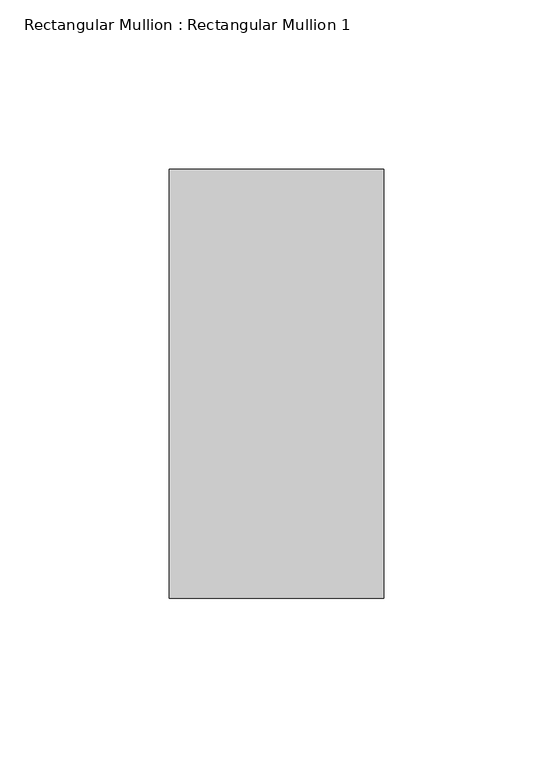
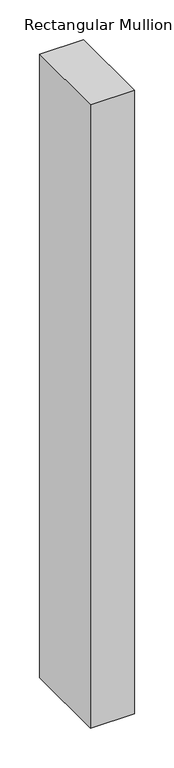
"""IFC4 building model written with IfcOpenShell, lengths in millimetres: member geometry, Rectangular Mullion : Rectangular Mullion 1."""

import ifcopenshell
import ifcopenshell.guid

model = None  # the IFC model being written
_history = None  # IfcOwnerHistory: only IFC2X3 demands one
_inside = {}  # id of a spatial element -> (the spatial element, [elements in it])
_under = {}  # id of a project, library or spatial element -> (it, [spatial elements below it])
_declared = {}  # id of a project -> (the project, [libraries it declares])
_typed = {}  # id of a type object -> (the type object, [elements of that type])
_made_of = {}  # id of a material, layer set ... -> (it, [elements and type objects made of it])


def new_model(schema):
    """Start an empty IFC model of exactly this schema.

    Asked for "IFC4X3", IfcOpenShell would pick the latest addendum, in which some entities
    have other attributes; the version numbers below select the first issue.
    IFC2X3 requires an IfcOwnerHistory on every rooted entity: one is made here for all.
    """
    global model, _history
    if schema == "IFC4X3":
        model = ifcopenshell.file(schema_version=(4, 3, 0, 0))
    else:
        model = ifcopenshell.file(schema=schema)
    _inside.clear()
    _under.clear()
    _declared.clear()
    _typed.clear()
    _made_of.clear()
    _history = None
    if model.schema == "IFC2X3":
        org = make("IfcOrganization", Name="unknown")
        user = make(
            "IfcPersonAndOrganization",
            ThePerson=make("IfcPerson", FamilyName="unknown"),
            TheOrganization=org,
        )
        app = make(
            "IfcApplication",
            ApplicationDeveloper=org,
            Version="unknown",
            ApplicationFullName="unknown",
            ApplicationIdentifier="unknown",
        )
        _history = make(
            "IfcOwnerHistory",
            OwningUser=user,
            OwningApplication=app,
            ChangeAction="ADDED",
            CreationDate=0,
        )
    return model


def make(cls, **values):
    """One entity of the class cls with the attributes given. An attribute that is None is left unset."""
    return model.create_entity(
        cls, **{name: value for name, value in values.items() if value is not None}
    )


def rooted(cls, **values):
    """An entity with a GlobalId (a new one), such as an element, a storey or a relation."""
    return make(cls, GlobalId=ifcopenshell.guid.new(), OwnerHistory=_history, **values)


def si_unit(unit_type, name, prefix=None):
    """IfcSIUnit, for example si_unit("LENGTHUNIT", "METRE", prefix="MILLI")."""
    return make("IfcSIUnit", UnitType=unit_type, Prefix=prefix, Name=name)


def assignment(units):
    """IfcUnitAssignment: the units of a project."""
    return None if units is None else make("IfcUnitAssignment", Units=units)


def point(xyz):
    """IfcCartesianPoint."""
    return None if xyz is None else make("IfcCartesianPoint", Coordinates=xyz)


def direction(xyz):
    """IfcDirection."""
    return None if xyz is None else make("IfcDirection", DirectionRatios=xyz)


def frame(location, z_axis=None, x_axis=None):
    """IfcAxis2Placement3D, a coordinate frame: its origin and axes. An axis left out is left unset."""
    return make(
        "IfcAxis2Placement3D",
        Location=point(location),
        Axis=direction(z_axis),
        RefDirection=direction(x_axis),
    )


def origin():
    """The frame at (0, 0, 0) with its axes left unset."""
    return frame((0.0, 0.0, 0.0))


def place(relative_to, where):
    """IfcLocalPlacement: puts the frame where relative to a parent placement (None: the world)."""
    return make(
        "IfcLocalPlacement", PlacementRelTo=relative_to, RelativePlacement=where
    )


def context(
    kind, dimensions, precision=None, world=None, true_north=None, identifier=None
):
    """IfcGeometricRepresentationContext, for example the 3D "Model" context."""
    return make(
        "IfcGeometricRepresentationContext",
        ContextIdentifier=identifier,
        ContextType=kind,
        CoordinateSpaceDimension=dimensions,
        Precision=precision,
        WorldCoordinateSystem=world,
        TrueNorth=true_north,
    )


def project(units=None, contexts=None):
    """IfcProject with its units and contexts."""
    return rooted(
        "IfcProject",
        Name="project",
        RepresentationContexts=contexts,
        UnitsInContext=assignment(units),
    )


def spatial(cls, under=None, at=None, **own):
    """A site, building, storey or space (cls), placed at a placement, below another one or the project."""
    s = rooted(cls, ObjectPlacement=at, **own)
    if under is not None:
        _under.setdefault(under.id(), (under, []))[1].append(s)
    return s


def polyline(points):
    """IfcPolyline through the points."""
    return make("IfcPolyline", Points=[point(p) for p in points])


def outline(outer, holes=None, kind="AREA"):
    """IfcArbitraryClosedProfileDef: a profile drawn as a closed curve; with holes, ...WithVoids."""
    if holes is None:
        return make("IfcArbitraryClosedProfileDef", ProfileType=kind, OuterCurve=outer)
    return make(
        "IfcArbitraryProfileDefWithVoids",
        ProfileType=kind,
        OuterCurve=outer,
        InnerCurves=holes,
    )


def extrude(swept, where, along, depth):
    """IfcExtrudedAreaSolid: the profile swept, set in the frame where, extruded along a direction by depth."""
    return make(
        "IfcExtrudedAreaSolid",
        SweptArea=swept,
        Position=where,
        ExtrudedDirection=direction(along),
        Depth=depth,
    )


def shape(context_of_items, identifier, shape_type, items):
    """IfcShapeRepresentation: the items that make up one representation, for example the "Body"."""
    return make(
        "IfcShapeRepresentation",
        ContextOfItems=context_of_items,
        RepresentationIdentifier=identifier,
        RepresentationType=shape_type,
        Items=items,
    )


def source(mapping_origin, context_of_items, identifier, shape_type, items):
    """IfcRepresentationMap: a shape defined once, which mapped items show again and again."""
    return make(
        "IfcRepresentationMap",
        MappingOrigin=mapping_origin,
        MappedRepresentation=shape(context_of_items, identifier, shape_type, items),
    )


def transform(
    local_origin,
    x_axis=None,
    y_axis=None,
    z_axis=None,
    scale=None,
    scale2=None,
    scale3=None,
    uniform=True,
):
    """IfcCartesianTransformationOperator3D, or its non-uniform kind. x_axis, y_axis, z_axis: its Axis1, 2, 3."""
    if uniform:
        return make(
            "IfcCartesianTransformationOperator3D",
            Axis1=direction(x_axis),
            Axis2=direction(y_axis),
            LocalOrigin=point(local_origin),
            Scale=scale,
            Axis3=direction(z_axis),
        )
    return make(
        "IfcCartesianTransformationOperator3DnonUniform",
        Axis1=direction(x_axis),
        Axis2=direction(y_axis),
        LocalOrigin=point(local_origin),
        Scale=scale,
        Axis3=direction(z_axis),
        Scale2=scale2,
        Scale3=scale3,
    )


def mapped(mapping_source, mapping_target):
    """IfcMappedItem: shows the shape of a source again, moved by a transform."""
    return make(
        "IfcMappedItem", MappingSource=mapping_source, MappingTarget=mapping_target
    )


def made_of(thing, what):
    """Note that an element or type object is made of a material, layer set ...; save() writes the relation."""
    if what is not None:
        _made_of.setdefault(what.id(), (what, []))[1].append(thing)
    return thing


def element(
    cls,
    number,
    at=None,
    inside=None,
    cuts=None,
    type_object=None,
    material=None,
    context=None,
    identifier="Body",
    shape_type=None,
    held_by="IfcProductDefinitionShape",
    body=None,
    shapes=None,
    **own,
):
    """One element of the class cls, such as IfcWall. Its Tag is "e" and its number.

    at: its placement. inside: the storey or other place that contains it. cuts: it is an
    opening in that element (IfcRelVoidsElement). A single representation is given by context,
    identifier, shape_type and body (its items); several are given by shapes. held_by: the class
    of the entity that holds the representations. save() writes the other relations.
    """
    e = rooted(cls, Tag="e%d" % number, ObjectPlacement=at, **own)
    if body is not None:
        shapes = [shape(context, identifier, shape_type, body)]
    if shapes is not None:
        e.Representation = make(held_by, Representations=shapes)
    if inside is not None:
        _inside.setdefault(inside.id(), (inside, []))[1].append(e)
    if cuts is not None:
        rooted(
            "IfcRelVoidsElement", RelatingBuildingElement=cuts, RelatedOpeningElement=e
        )
    if type_object is not None:
        _typed.setdefault(type_object.id(), (type_object, []))[1].append(e)
    return made_of(e, material)


def aggregate(whole, parts):
    """IfcRelAggregates: a whole, such as a stair, and the parts it consists of."""
    return rooted("IfcRelAggregates", RelatingObject=whole, RelatedObjects=parts)


def save(model, path):
    """Write the relations noted so far, then the file.

    IfcRelAggregates (storeys below a building ...), IfcRelContainedInSpatialStructure (elements
    in a storey), IfcRelDefinesByType, IfcRelAssociatesMaterial and IfcRelDeclares: one each for
    every whole, place, type object, material and project.
    """
    for whole, parts in _under.values():
        aggregate(whole, parts)
    for where, things in _inside.values():
        rooted(
            "IfcRelContainedInSpatialStructure",
            RelatedElements=things,
            RelatingStructure=where,
        )
    for kind, things in _typed.values():
        rooted("IfcRelDefinesByType", RelatedObjects=things, RelatingType=kind)
    for what, things in _made_of.values():
        rooted("IfcRelAssociatesMaterial", RelatedObjects=things, RelatingMaterial=what)
    for by, libraries in _declared.values():
        rooted("IfcRelDeclares", RelatingContext=by, RelatedDefinitions=libraries)
    model.write(path)


def rectangular_mullion_rectangular_mullion_1_4643a8e7(model_context):
    return source(origin(), model_context, "Body", "SweptSolid", [
        extrude(outline(polyline([(0.0, 63.5), (0.0, -63.5), (-63.5, -63.5), (-63.5, 63.5), (0.0, 63.5)])), frame((0.0, 0.0, -952.9303874), z_axis=(0.0, 0.0, 1.0), x_axis=(1.0, 0.0, 0.0)), (0.0, 0.0, 1.0), 952.9303874),
    ])


if __name__ == "__main__":
    model = new_model("IFC4")
    model_context = context("Model", 3, world=origin())
    ifc_project = project(units=[si_unit("LENGTHUNIT", "METRE", prefix="MILLI")], contexts=[model_context])
    site = spatial("IfcSite", under=ifc_project)
    building = spatial("IfcBuilding", under=site)
    placement = place(None, origin())
    rectangular_mullion_rectangular_mullion_1_shape = rectangular_mullion_rectangular_mullion_1_4643a8e7(model_context)
    element("IfcMember", 1, ObjectType="Rectangular Mullion : Rectangular Mullion 1", at=placement, inside=building, context=model_context, shape_type="MappedRepresentation", body=[
        mapped(rectangular_mullion_rectangular_mullion_1_shape, transform((0.0, 0.0, 0.0), x_axis=(1.0, 0.0, 0.0), y_axis=(0.0, 1.0, 0.0), z_axis=(0.0, 0.0, 1.0))),
    ])
    save(model, "model.ifc")
